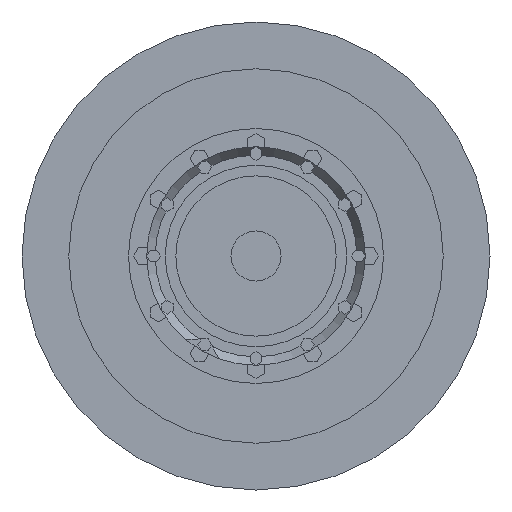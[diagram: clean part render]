
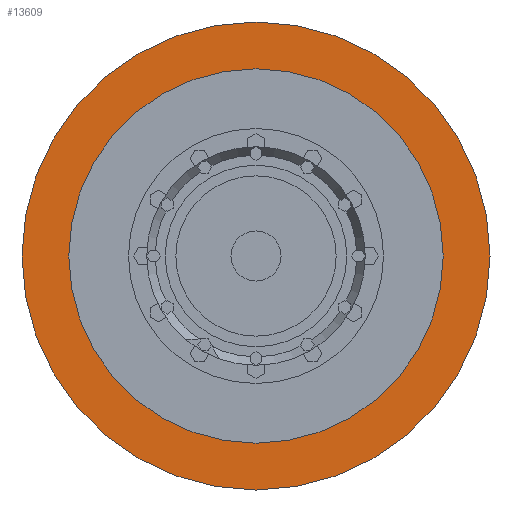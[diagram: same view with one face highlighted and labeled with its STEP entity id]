
A CAD part, left-side view. The second image highlights one B-rep face of the part: STEP entity #13609.
In plain terms, the highlighted planar face has unit normal (-1, 0, 0).
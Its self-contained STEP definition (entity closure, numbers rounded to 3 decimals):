
#13406=CARTESIAN_POINT('',(-6.35,0.,0.));
#13407=DIRECTION('',(-1.,0.,0.));
#13408=DIRECTION('',(0.,1.,0.));
#13409=AXIS2_PLACEMENT_3D('',#13406,#13407,#13408);
#13411=CARTESIAN_POINT('',(-6.35,0.,0.));
#13412=DIRECTION('',(1.,0.,0.));
#13413=DIRECTION('',(0.,1.,0.));
#13414=AXIS2_PLACEMENT_3D('',#13411,#13412,#13413);
#13416=CARTESIAN_POINT('',(-6.35,0.,0.));
#13417=DIRECTION('',(1.,0.,0.));
#13418=DIRECTION('',(0.,1.,0.));
#13419=AXIS2_PLACEMENT_3D('',#13416,#13417,#13418);
#13429=CARTESIAN_POINT('',(-6.35,0.,0.));
#13430=DIRECTION('',(-1.,0.,0.));
#13431=DIRECTION('',(0.,1.,0.));
#13432=AXIS2_PLACEMENT_3D('',#13429,#13430,#13431);
#13452=CARTESIAN_POINT('',(-6.35,205.6,0.));
#13454=VERTEX_POINT('',#13452);
#13464=CARTESIAN_POINT('',(-6.35,-205.6,0.));
#13466=VERTEX_POINT('',#13464);
#13469=CARTESIAN_POINT('',(-6.35,257.,0.));
#13471=VERTEX_POINT('',#13469);
#13473=CARTESIAN_POINT('',(-6.35,-257.,0.));
#13475=VERTEX_POINT('',#13473);
#13594=CARTESIAN_POINT('',(-6.35,0.,0.));
#13595=DIRECTION('',(1.,0.,0.));
#13596=DIRECTION('',(0.,-1.,0.));
#13597=AXIS2_PLACEMENT_3D('',#13594,#13595,#13596);
#13598=PLANE('',#13597);
#13599=ORIENTED_EDGE('',*,*,#13587,.F.);
#13600=ORIENTED_EDGE('',*,*,#13576,.T.);
#13601=EDGE_LOOP('',(#13599,#13600));
#13602=FACE_OUTER_BOUND('',#13601,.F.);
#13604=ORIENTED_EDGE('',*,*,#13603,.F.);
#13606=ORIENTED_EDGE('',*,*,#13605,.T.);
#13607=EDGE_LOOP('',(#13604,#13606));
#13608=FACE_BOUND('',#13607,.F.);
#13609=ADVANCED_FACE('',(#13602,#13608),#13598,.F.);
#13410=CIRCLE('',#13409,257.);
#13415=CIRCLE('',#13414,257.);
#13420=CIRCLE('',#13419,205.6);
#13433=CIRCLE('',#13432,205.6);
#13576=EDGE_CURVE('',#13471,#13475,#13415,.T.);
#13587=EDGE_CURVE('',#13471,#13475,#13410,.T.);
#13603=EDGE_CURVE('',#13454,#13466,#13420,.T.);
#13605=EDGE_CURVE('',#13454,#13466,#13433,.T.);
